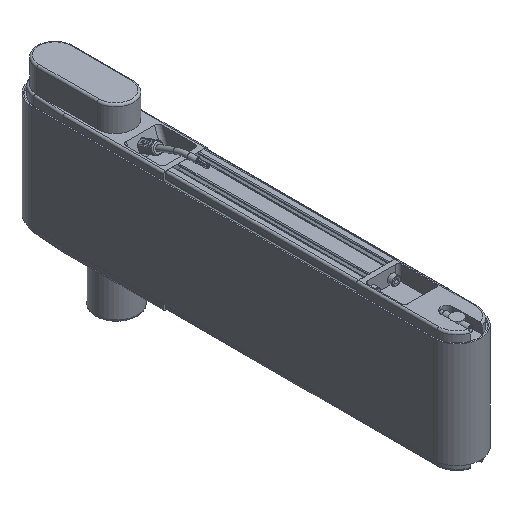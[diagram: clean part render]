
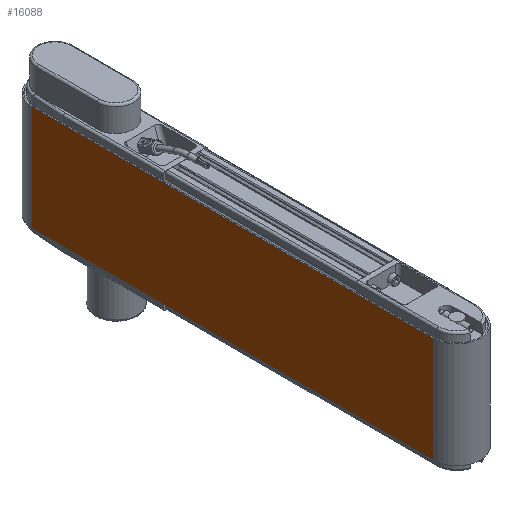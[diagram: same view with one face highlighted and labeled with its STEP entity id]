
A CAD part, isometric view. The second image highlights one B-rep face of the part: STEP entity #16088.
In plain terms, the highlighted planar face has unit normal (-1, 0, 0).
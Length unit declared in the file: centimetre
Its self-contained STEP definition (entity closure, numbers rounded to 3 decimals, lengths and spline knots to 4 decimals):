
#506=PLANE('',#17149);
#1167=FACE_OUTER_BOUND('',#2058,.T.);
#2058=EDGE_LOOP('',(#10876,#10877,#10878,#10879));
#3062=LINE('',#23926,#4314);
#3063=LINE('',#23931,#4315);
#3065=LINE('',#23935,#4317);
#3066=LINE('',#23936,#4318);
#4314=VECTOR('',#19255,1.);
#4315=VECTOR('',#19260,1.);
#4317=VECTOR('',#19264,1.);
#4318=VECTOR('',#19265,1.);
#6455=VERTEX_POINT('',#23920);
#6457=VERTEX_POINT('',#23924);
#6459=VERTEX_POINT('',#23929);
#6460=VERTEX_POINT('',#23934);
#8168=EDGE_CURVE('',#6455,#6457,#3062,.T.);
#8170=EDGE_CURVE('',#6459,#6457,#3063,.T.);
#8172=EDGE_CURVE('',#6459,#6460,#3065,.T.);
#8173=EDGE_CURVE('',#6460,#6455,#3066,.T.);
#10876=ORIENTED_EDGE('',*,*,#8172,.T.);
#10877=ORIENTED_EDGE('',*,*,#8173,.T.);
#10878=ORIENTED_EDGE('',*,*,#8168,.T.);
#10879=ORIENTED_EDGE('',*,*,#8170,.F.);
#16088=ADVANCED_FACE('',(#1167),#506,.T.);
#17149=AXIS2_PLACEMENT_3D('',#23933,#19262,#19263);
#19255=DIRECTION('',(0.,1.,0.));
#19260=DIRECTION('',(0.,0.,1.));
#19262=DIRECTION('center_axis',(-1.,0.,0.));
#19263=DIRECTION('ref_axis',(0.,0.,
1.));
#19264=DIRECTION('',(0.,-1.,0.));
#19265=DIRECTION('',(0.,0.,1.));
#23920=CARTESIAN_POINT('',(-2.33,-27.,5.25));
#23924=CARTESIAN_POINT('',(-2.33,13.,5.25));
#23926=CARTESIAN_POINT('',(-2.33,13.,5.25));
#23929=CARTESIAN_POINT('',(-2.33,13.,-5.25));
#23931=CARTESIAN_POINT('',(-2.33,13.,0.));
#23933=CARTESIAN_POINT('Origin',(-2.33,13.,0.));
#23934=CARTESIAN_POINT('',(-2.33,-27.,-5.25));
#23935=CARTESIAN_POINT('',(-2.33,13.,-5.25));
#23936=CARTESIAN_POINT('',(-2.33,-27.,0.));
